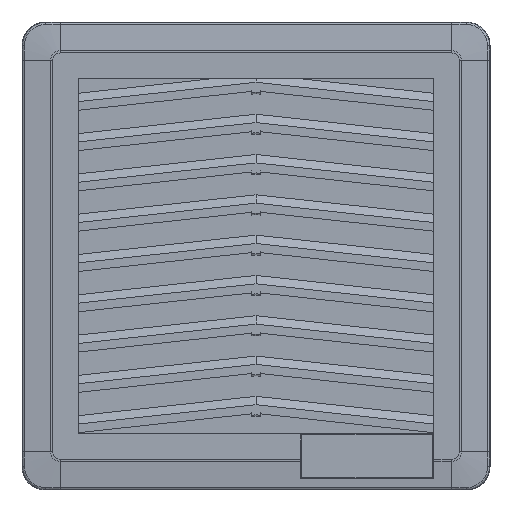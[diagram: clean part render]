
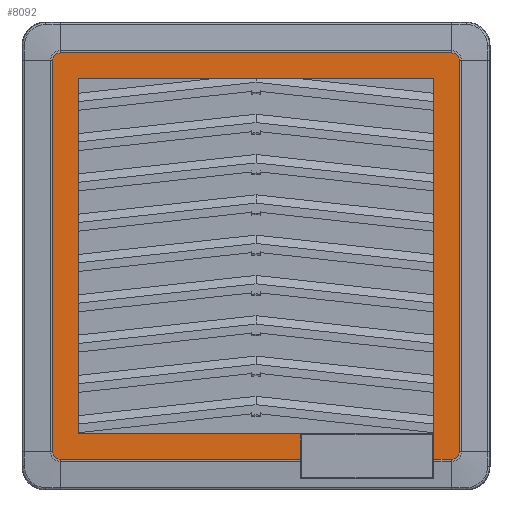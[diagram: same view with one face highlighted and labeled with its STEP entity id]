
A CAD part, front view. The second image highlights one B-rep face of the part: STEP entity #8092.
In plain terms, the highlighted planar face has unit normal (0, -1, 0) as drawn and (0, 0, 1) by its records, which use the part's own axes.
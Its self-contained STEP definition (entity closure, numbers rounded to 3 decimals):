
#159 = EDGE_CURVE ( 'NONE', #23529, #6953, #23152, .T. ) ;
#191 = DIRECTION ( 'NONE',  ( 1., 0., 0. ) ) ;
#251 = CIRCLE ( 'NONE', #26596, 1.738 ) ;
#276 = DIRECTION ( 'NONE',  ( -1., 0., 0. ) ) ;
#754 = VECTOR ( 'NONE', #21051, 1000. ) ;
#905 = VERTEX_POINT ( 'NONE', #2841 ) ;
#965 = CARTESIAN_POINT ( 'NONE',  ( 40.45, -40.5, 6.5 ) ) ;
#1015 = CARTESIAN_POINT ( 'NONE',  ( -40.45, -40.5, 6.5 ) ) ;
#1394 = CARTESIAN_POINT ( 'NONE',  ( -44.537, 44.537, 6.5 ) ) ;
#2233 = CARTESIAN_POINT ( 'NONE',  ( 0., 46.275, 6.5 ) ) ;
#2494 = LINE ( 'NONE', #26973, #23770 ) ;
#2841 = CARTESIAN_POINT ( 'NONE',  ( 46.275, 44.537, 6.5 ) ) ;
#3000 = VERTEX_POINT ( 'NONE', #13104 ) ;
#3051 = CARTESIAN_POINT ( 'NONE',  ( 0., -46.275, 6.5 ) ) ;
#3760 = CARTESIAN_POINT ( 'NONE',  ( 0., 0., 6.5 ) ) ;
#3891 = VECTOR ( 'NONE', #23796, 1000. ) ;
#4180 = LINE ( 'NONE', #19484, #4779 ) ;
#4183 = EDGE_CURVE ( 'NONE', #11406, #13093, #9122, .T. ) ;
#4225 = EDGE_CURVE ( 'NONE', #3000, #20914, #27609, .T. ) ;
#4382 = DIRECTION ( 'NONE',  ( 0., 1., 0. ) ) ;
#4627 = ORIENTED_EDGE ( 'NONE', *, *, #11564, .T. ) ;
#4779 = VECTOR ( 'NONE', #21670, 1000. ) ;
#6394 = CARTESIAN_POINT ( 'NONE',  ( -40.45, 40.5, 6.5 ) ) ;
#6657 = EDGE_CURVE ( 'NONE', #3000, #6953, #15080, .T. ) ;
#6667 = CARTESIAN_POINT ( 'NONE',  ( -44.537, -44.537, 6.5 ) ) ;
#6701 = DIRECTION ( 'NONE',  ( -1., 0., 0. ) ) ;
#6953 = VERTEX_POINT ( 'NONE', #24996 ) ;
#6974 = EDGE_LOOP ( 'NONE', ( #22606, #19601, #27822, #11997, #11318, #28472, #18176, #7659, #8822, #7898, #15817, #22538, #4627, #13870 ) ) ;
#7069 = AXIS2_PLACEMENT_3D ( 'NONE', #3760, #21549, #19227 ) ;
#7277 = EDGE_CURVE ( 'NONE', #15901, #905, #13332, .T. ) ;
#7659 = ORIENTED_EDGE ( 'NONE', *, *, #15566, .T. ) ;
#7898 = ORIENTED_EDGE ( 'NONE', *, *, #159, .T. ) ;
#8092 = ADVANCED_FACE ( 'NONE', ( #21827 ), #10825, .F. ) ;
#8579 = AXIS2_PLACEMENT_3D ( 'NONE', #1394, #14667, #27877 ) ;
#8666 = EDGE_CURVE ( 'NONE', #25822, #21331, #28577, .T. ) ;
#8822 = ORIENTED_EDGE ( 'NONE', *, *, #25950, .T. ) ;
#9122 = CIRCLE ( 'NONE', #8579, 1.738 ) ;
#9253 = CARTESIAN_POINT ( 'NONE',  ( -44.537, 46.275, 6.5 ) ) ;
#9427 = AXIS2_PLACEMENT_3D ( 'NONE', #20343, #11371, #276 ) ;
#9549 = EDGE_CURVE ( 'NONE', #27257, #15901, #18188, .T. ) ;
#10440 = CARTESIAN_POINT ( 'NONE',  ( 40.45, -40.5, 6.5 ) ) ;
#10698 = DIRECTION ( 'NONE',  ( 0., 0., 1. ) ) ;
#10822 = CARTESIAN_POINT ( 'NONE',  ( 44.537, 46.275, 6.5 ) ) ;
#10825 = PLANE ( 'NONE',  #7069 ) ;
#10993 = DIRECTION ( 'NONE',  ( -1., 0., 0. ) ) ;
#11318 = ORIENTED_EDGE ( 'NONE', *, *, #26486, .T. ) ;
#11371 = DIRECTION ( 'NONE',  ( 0., 0., 1. ) ) ;
#11406 = VERTEX_POINT ( 'NONE', #9253 ) ;
#11564 = EDGE_CURVE ( 'NONE', #20914, #25935, #27661, .T. ) ;
#11905 = CARTESIAN_POINT ( 'NONE',  ( -46.275, 0., 6.5 ) ) ;
#11919 = VERTEX_POINT ( 'NONE', #17605 ) ;
#11997 = ORIENTED_EDGE ( 'NONE', *, *, #7277, .T. ) ;
#12690 = DIRECTION ( 'NONE',  ( 0., 0., 1. ) ) ;
#13093 = VERTEX_POINT ( 'NONE', #14912 ) ;
#13104 = CARTESIAN_POINT ( 'NONE',  ( 10.15, -40.5, 6.5 ) ) ;
#13265 = CARTESIAN_POINT ( 'NONE',  ( 46.275, -44.537, 6.5 ) ) ;
#13332 = LINE ( 'NONE', #15808, #20891 ) ;
#13529 = VECTOR ( 'NONE', #6701, 1000. ) ;
#13870 = ORIENTED_EDGE ( 'NONE', *, *, #21823, .F. ) ;
#14628 = CARTESIAN_POINT ( 'NONE',  ( 40.45, -46.275, 6.5 ) ) ;
#14667 = DIRECTION ( 'NONE',  ( 0., 0., 1. ) ) ;
#14899 = VECTOR ( 'NONE', #4382, 1000. ) ;
#14912 = CARTESIAN_POINT ( 'NONE',  ( -46.275, 44.537, 6.5 ) ) ;
#15080 = LINE ( 'NONE', #23644, #3891 ) ;
#15163 = CARTESIAN_POINT ( 'NONE',  ( 44.537, 44.537, 6.5 ) ) ;
#15227 = LINE ( 'NONE', #2233, #13529 ) ;
#15479 = VECTOR ( 'NONE', #25412, 1000. ) ;
#15566 = EDGE_CURVE ( 'NONE', #13093, #11919, #18994, .T. ) ;
#15770 = CARTESIAN_POINT ( 'NONE',  ( -44.537, -46.275, 6.5 ) ) ;
#15808 = CARTESIAN_POINT ( 'NONE',  ( 46.275, 0., 6.5 ) ) ;
#15817 = ORIENTED_EDGE ( 'NONE', *, *, #6657, .F. ) ;
#15901 = VERTEX_POINT ( 'NONE', #13265 ) ;
#16334 = CARTESIAN_POINT ( 'NONE',  ( 44.537, -46.275, 6.5 ) ) ;
#16380 = AXIS2_PLACEMENT_3D ( 'NONE', #15163, #12690, #21817 ) ;
#17036 = DIRECTION ( 'NONE',  ( 1., 0., 0. ) ) ;
#17605 = CARTESIAN_POINT ( 'NONE',  ( -46.275, -44.537, 6.5 ) ) ;
#17845 = DIRECTION ( 'NONE',  ( 0., 1., 0. ) ) ;
#18176 = ORIENTED_EDGE ( 'NONE', *, *, #4183, .T. ) ;
#18188 = CIRCLE ( 'NONE', #9427, 1.738 ) ;
#18994 = LINE ( 'NONE', #11905, #15479 ) ;
#19227 = DIRECTION ( 'NONE',  ( -1., 0., 0. ) ) ;
#19484 = CARTESIAN_POINT ( 'NONE',  ( 40.45, 40.5, 6.5 ) ) ;
#19601 = ORIENTED_EDGE ( 'NONE', *, *, #25250, .T. ) ;
#19631 = CIRCLE ( 'NONE', #16380, 1.738 ) ;
#20291 = CARTESIAN_POINT ( 'NONE',  ( 40.45, 40.5, 6.5 ) ) ;
#20343 = CARTESIAN_POINT ( 'NONE',  ( 44.537, -44.537, 6.5 ) ) ;
#20891 = VECTOR ( 'NONE', #17845, 1000. ) ;
#20914 = VERTEX_POINT ( 'NONE', #23565 ) ;
#21051 = DIRECTION ( 'NONE',  ( -1., 0., 0. ) ) ;
#21331 = VERTEX_POINT ( 'NONE', #20291 ) ;
#21549 = DIRECTION ( 'NONE',  ( 0., 0., -1. ) ) ;
#21593 = EDGE_CURVE ( 'NONE', #27601, #11406, #15227, .T. ) ;
#21670 = DIRECTION ( 'NONE',  ( -1., 0., 0. ) ) ;
#21817 = DIRECTION ( 'NONE',  ( -1., 0., 0. ) ) ;
#21823 = EDGE_CURVE ( 'NONE', #21331, #25935, #4180, .T. ) ;
#21827 = FACE_OUTER_BOUND ( 'NONE', #6974, .T. ) ;
#22538 = ORIENTED_EDGE ( 'NONE', *, *, #4225, .T. ) ;
#22606 = ORIENTED_EDGE ( 'NONE', *, *, #8666, .F. ) ;
#23152 = LINE ( 'NONE', #3051, #26746 ) ;
#23529 = VERTEX_POINT ( 'NONE', #15770 ) ;
#23565 = CARTESIAN_POINT ( 'NONE',  ( -40.45, -40.5, 6.5 ) ) ;
#23644 = CARTESIAN_POINT ( 'NONE',  ( 10.15, -40.5, 6.5 ) ) ;
#23770 = VECTOR ( 'NONE', #191, 1000. ) ;
#23796 = DIRECTION ( 'NONE',  ( 0., -1., 0. ) ) ;
#24996 = CARTESIAN_POINT ( 'NONE',  ( 10.15, -46.275, 6.5 ) ) ;
#25250 = EDGE_CURVE ( 'NONE', #25822, #27257, #2494, .T. ) ;
#25412 = DIRECTION ( 'NONE',  ( 0., -1., 0. ) ) ;
#25822 = VERTEX_POINT ( 'NONE', #14628 ) ;
#25935 = VERTEX_POINT ( 'NONE', #6394 ) ;
#25950 = EDGE_CURVE ( 'NONE', #11919, #23529, #251, .T. ) ;
#26486 = EDGE_CURVE ( 'NONE', #905, #27601, #19631, .T. ) ;
#26596 = AXIS2_PLACEMENT_3D ( 'NONE', #6667, #10698, #10993 ) ;
#26605 = VECTOR ( 'NONE', #27251, 1000. ) ;
#26746 = VECTOR ( 'NONE', #17036, 1000. ) ;
#26973 = CARTESIAN_POINT ( 'NONE',  ( 0., -46.275, 6.5 ) ) ;
#27251 = DIRECTION ( 'NONE',  ( 0., 1., 0. ) ) ;
#27257 = VERTEX_POINT ( 'NONE', #16334 ) ;
#27601 = VERTEX_POINT ( 'NONE', #10822 ) ;
#27609 = LINE ( 'NONE', #965, #754 ) ;
#27661 = LINE ( 'NONE', #1015, #26605 ) ;
#27822 = ORIENTED_EDGE ( 'NONE', *, *, #9549, .T. ) ;
#27877 = DIRECTION ( 'NONE',  ( -1., 0., 0. ) ) ;
#28472 = ORIENTED_EDGE ( 'NONE', *, *, #21593, .T. ) ;
#28577 = LINE ( 'NONE', #10440, #14899 ) ;
